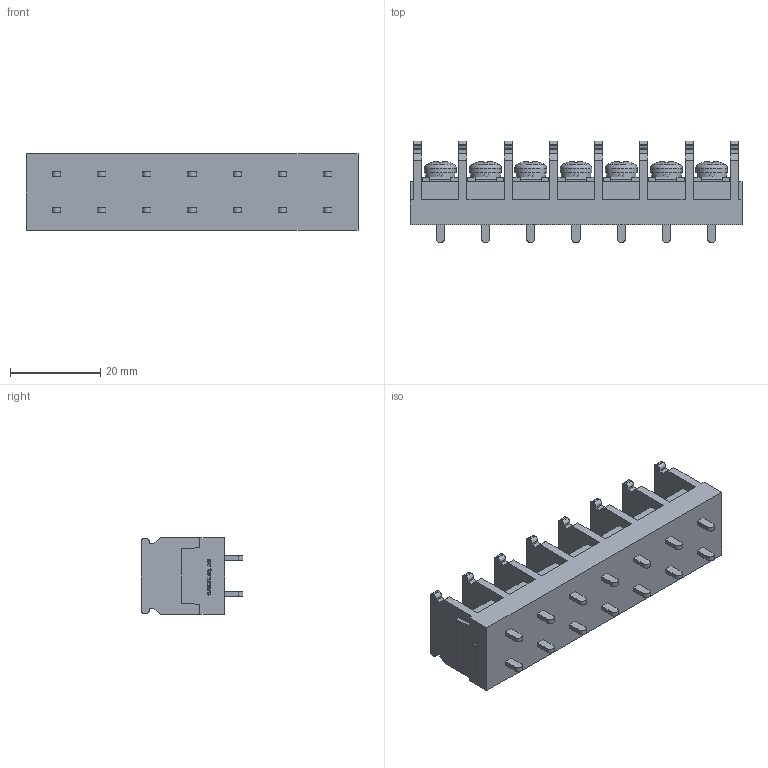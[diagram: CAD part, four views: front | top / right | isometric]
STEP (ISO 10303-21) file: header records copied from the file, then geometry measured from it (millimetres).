
FILE_DESCRIPTION(/* description */ ('Alibre Inc.'),/* implementation_level */ '2;1');
FILE_NAME(/* name */ 'export0',/* time_stamp */ '2015-10-17T15:34:01+09:00',/* author */ (''),/* organization */ (''),/* preprocessor_version */ 'ST-DEVELOPER v14',/* originating_system */ 'Alibre',/* authorisation */ '');
FILE_SCHEMA (('CONFIG_CONTROL_DESIGN'));
Length unit declared in the file: centimetre
Products named in the file (1): ID_1
Bounding box: 73.4 x 22.5 x 17 mm (x, y, z)
Volume: 14089.2 mm3; surface area: 8435.5 mm2
Topology: 1 solids, 17 shells, 912 faces, 2469 edges, 1639 vertices
Faces by surface type: plane 678, bspline 104, cylinder 81, cone 28, torus 14, sphere 7
Full cylindrical faces by diameter (mm): 4 x7, 6.5 x7, 7 x7
Entity records: 27706 total; most frequent: CARTESIAN_POINT 6092, ORIENTED_EDGE 4840, DIRECTION 3448, EDGE_CURVE 2420, VECTOR 1786, LINE 1786, VERTEX_POINT 1618, AXIS2_PLACEMENT_3D 1160
